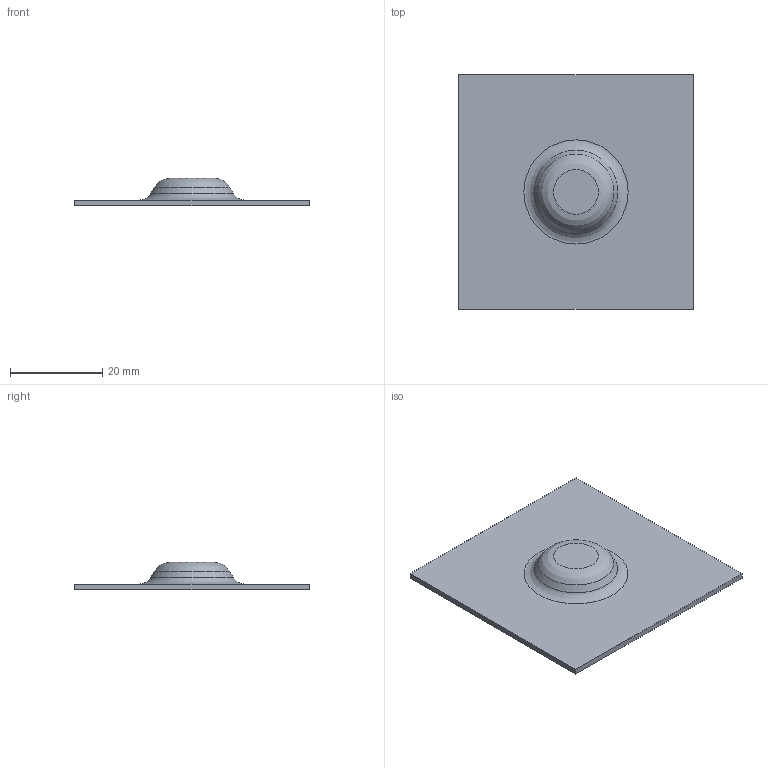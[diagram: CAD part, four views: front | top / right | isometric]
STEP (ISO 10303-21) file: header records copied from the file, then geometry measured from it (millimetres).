
FILE_DESCRIPTION((''),'1');
FILE_NAME('C:/Users/robertnolte/Desktop/WT#439099-20.stp','2012-03-29T23:18:28',(''),(''),'Spatial Interop R21 SP3','Kubotek KeyCreator 2011 V10.5.0 (24766)',' ');
FILE_SCHEMA(('CONFIG_CONTROL_DESIGN'));
Length unit declared in the file: inch
Products named in the file (1): 1
Bounding box: 50.8 x 50.8 x 5.92 mm (x, y, z)
Volume: 3270.9 mm3; surface area: 5613.4 mm2
Topology: 1 solids, 1 shells, 14 faces, 28 edges, 18 vertices
Faces by surface type: plane 8, torus 4, cone 2
Entity records: 360 total; most frequent: DIRECTION 58, CARTESIAN_POINT 51, ORIENTED_EDGE 40, AXIS2_PLACEMENT_3D 23, EDGE_LOOP 22, EDGE_CURVE 20, VERTEX_POINT 16, ADVANCED_FACE 14
